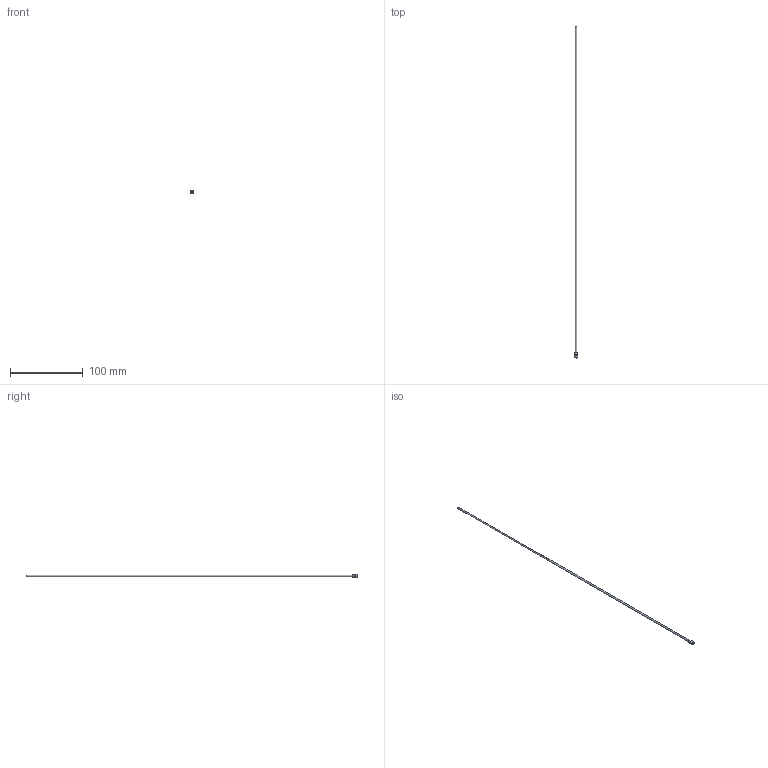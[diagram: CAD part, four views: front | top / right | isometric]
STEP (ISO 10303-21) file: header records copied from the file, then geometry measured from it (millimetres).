
FILE_DESCRIPTION(/* description */ (''),/* implementation_level */ '2;1');
FILE_NAME(/* name */ 'C:/Users/drich/Desktop/R093T-18 v1.step',/* time_stamp */ '2019-12-30T13:11:23-06:00',/* author */ (''),/* organization */ (''),/* preprocessor_version */ 'ST-DEVELOPER v18',/* originating_system */ 'Autodesk Translation Framework v8.12.0.6',/* authorisation */ '');
FILE_SCHEMA (('AUTOMOTIVE_DESIGN { 1 0 10303 214 3 1 1 }'));
Length unit declared in the file: inch
Products named in the file (1): R093T-18
Bounding box: 4.62 x 457.2 x 4.62 mm (x, y, z)
Volume: 581.7 mm3; surface area: 6136 mm2
Topology: 1 solids, 1 shells, 19 faces, 47 edges, 33 vertices
Faces by surface type: plane 11, cylinder 4, torus 3, cone 1
Full cylindrical faces by diameter (mm): 1.93 x1, 2.286 x1, 3.096 x1, 4.623 x1
Entity records: 624 total; most frequent: DIRECTION 111, CARTESIAN_POINT 100, ORIENTED_EDGE 94, EDGE_CURVE 47, AXIS2_PLACEMENT_3D 44, VERTEX_POINT 33, EDGE_LOOP 24, CIRCLE 24
